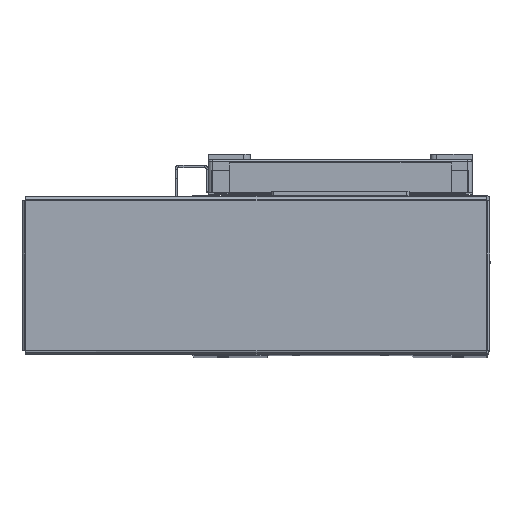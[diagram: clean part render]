
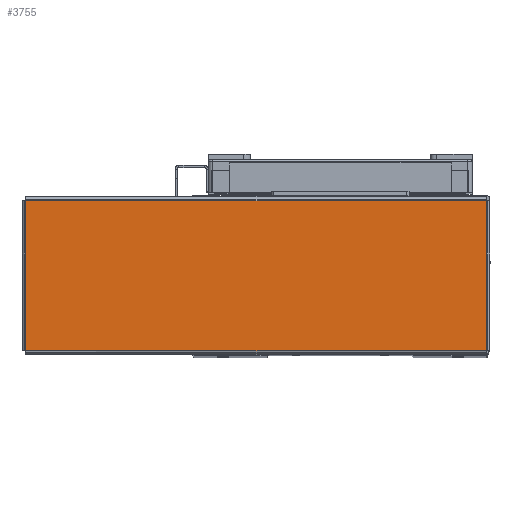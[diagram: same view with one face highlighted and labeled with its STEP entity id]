
A CAD part, top view. The second image highlights one B-rep face of the part: STEP entity #3755.
In plain terms, the highlighted planar face has unit normal (0, 0, 1) as drawn and (0, -1, 0) by its records, which use the part's own axes.
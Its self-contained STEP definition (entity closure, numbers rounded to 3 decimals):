
#530 = CARTESIAN_POINT ( 'NONE',  ( -103.763, -1., 33.763 ) ) ;
#543 = CARTESIAN_POINT ( 'NONE',  ( 103.763, -1., 33.763 ) ) ;
#3755 = ADVANCED_FACE ( 'NONE', ( #27756 ), #34970, .F. ) ;
#7455 = VERTEX_POINT ( 'NONE', #59036 ) ;
#23284 = CARTESIAN_POINT ( 'NONE',  ( 103.763, -1., -33.763 ) ) ;
#27756 = FACE_OUTER_BOUND ( 'NONE', #48653, .T. ) ;
#28277 = ORIENTED_EDGE ( 'NONE', *, *, #61377, .T. ) ;
#28521 = ORIENTED_EDGE ( 'NONE', *, *, #61307, .T. ) ;
#28573 = ORIENTED_EDGE ( 'NONE', *, *, #61359, .T. ) ;
#29157 = ORIENTED_EDGE ( 'NONE', *, *, #61363, .T. ) ;
#31204 = VERTEX_POINT ( 'NONE', #543 ) ;
#32561 = VERTEX_POINT ( 'NONE', #530 ) ;
#32584 = AXIS2_PLACEMENT_3D ( 'NONE', #34946, #34955, #34936 ) ;
#34936 = DIRECTION ( 'NONE',  ( 0., 0., 1. ) ) ;
#34946 = CARTESIAN_POINT ( 'NONE',  ( 0., -1., 0. ) ) ;
#34955 = DIRECTION ( 'NONE',  ( 0., 1., 0. ) ) ;
#34970 = PLANE ( 'NONE',  #32584 ) ;
#38911 = DIRECTION ( 'NONE',  ( 1., 0., 0. ) ) ;
#38923 = CARTESIAN_POINT ( 'NONE',  ( -103.793, -1., -33.763 ) ) ;
#39162 = DIRECTION ( 'NONE',  ( 0., 0., 1. ) ) ;
#39166 = CARTESIAN_POINT ( 'NONE',  ( 103.763, -1., -33.793 ) ) ;
#39192 = DIRECTION ( 'NONE',  ( -1., 0., 0. ) ) ;
#39208 = CARTESIAN_POINT ( 'NONE',  ( 103.793, -1., 33.763 ) ) ;
#39260 = CARTESIAN_POINT ( 'NONE',  ( -103.763, -1., 33.793 ) ) ;
#39266 = DIRECTION ( 'NONE',  ( 0., 0., -1. ) ) ;
#47286 = VERTEX_POINT ( 'NONE', #23284 ) ;
#48653 = EDGE_LOOP ( 'NONE', ( #29157, #28277, #28521, #28573 ) ) ;
#53210 = VECTOR ( 'NONE', #38911, 1000. ) ;
#53290 = LINE ( 'NONE', #38923, #53210 ) ;
#53527 = VECTOR ( 'NONE', #39162, 1000. ) ;
#53543 = LINE ( 'NONE', #39166, #53527 ) ;
#53565 = LINE ( 'NONE', #39208, #53573 ) ;
#53567 = LINE ( 'NONE', #39260, #53575 ) ;
#53573 = VECTOR ( 'NONE', #39192, 1000. ) ;
#53575 = VECTOR ( 'NONE', #39266, 1000. ) ;
#59036 = CARTESIAN_POINT ( 'NONE',  ( -103.763, -1., -33.763 ) ) ;
#61307 = EDGE_CURVE ( 'NONE', #7455, #47286, #53290, .T. ) ;
#61359 = EDGE_CURVE ( 'NONE', #47286, #31204, #53543, .T. ) ;
#61363 = EDGE_CURVE ( 'NONE', #31204, #32561, #53565, .T. ) ;
#61377 = EDGE_CURVE ( 'NONE', #32561, #7455, #53567, .T. ) ;
